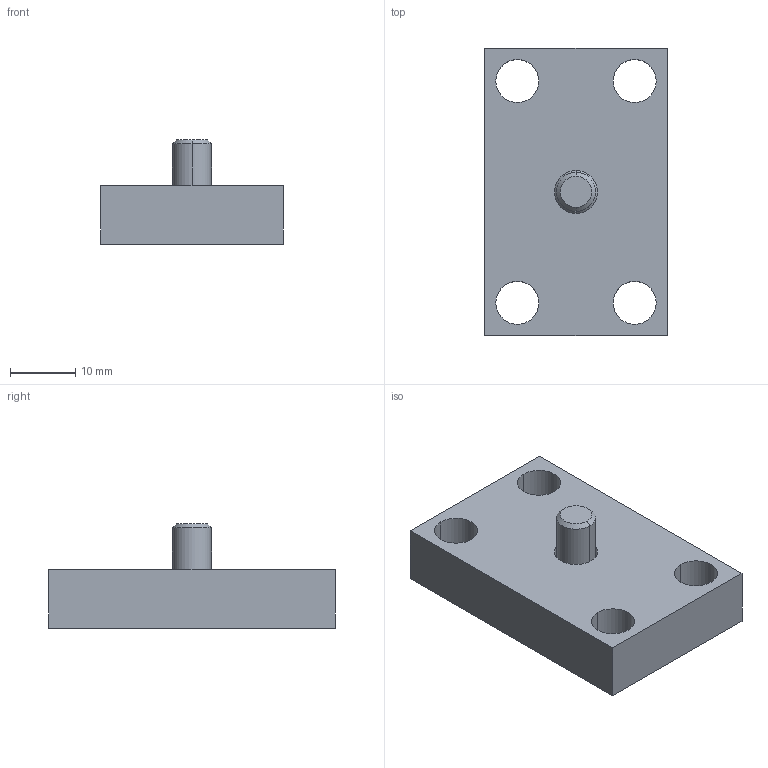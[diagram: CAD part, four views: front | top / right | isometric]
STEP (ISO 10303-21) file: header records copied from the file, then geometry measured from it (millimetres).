
FILE_DESCRIPTION(/* description */ (''),/* implementation_level */ '2;1');
FILE_NAME(/* name */ '3d_hm-25_04128_r00.stp',/* time_stamp */ '2011-01-10T14:14:42+09:00',/* author */ ('MISUMI'),/* organization */ (''),/* preprocessor_version */ 'ST-DEVELOPER v11',/* originating_system */ 'UGS - NX 5.0',/* authorisation */ '');
FILE_SCHEMA (('CONFIG_CONTROL_DESIGN'));
Length unit declared in the file: millimetre
Products named in the file (1): 3d_hm-25_04128_r00
Bounding box: 28 x 44 x 16 mm (x, y, z)
Volume: 9973 mm3; surface area: 4868.5 mm2
Topology: 2 solids, 2 shells, 33 faces, 78 edges, 50 vertices
Faces by surface type: plane 15, cylinder 12, cone 6
Entity records: 1058 total; most frequent: DIRECTION 176, CARTESIAN_POINT 162, ORIENTED_EDGE 156, EDGE_CURVE 78, AXIS2_PLACEMENT_3D 64, VERTEX_POINT 50, LINE 48, VECTOR 48
